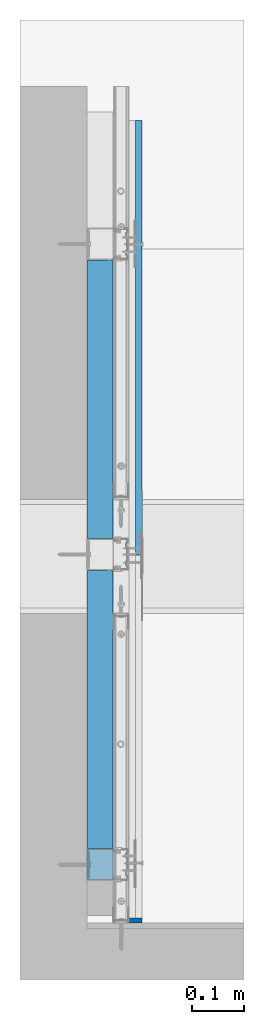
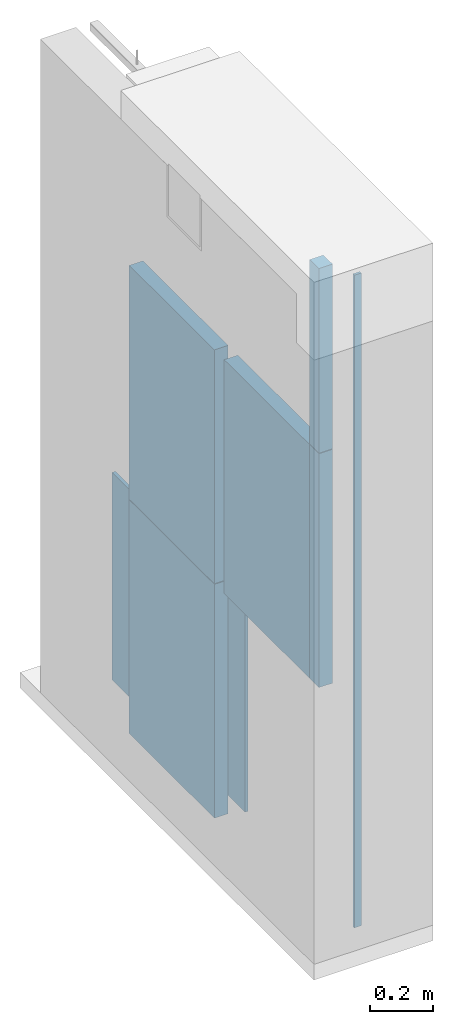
# One storey, part 4 of 67: 6 walls.
"""IFC2X3 building model written with IfcOpenShell, lengths in millimetres."""

from ifc_helpers import new_model, si_unit, frame, origin_with_axes, place, context, subcontext, project, spatial, faceted_brep, material, type_object, element, save


model = new_model("IFC2X3")

# Units and contexts
model_context = context("Model", 3, world=origin_with_axes())
body_context = subcontext(model_context, "Body", "Model", "MODEL_VIEW")
ifc_project = project(units=[si_unit("LENGTHUNIT", "METRE", prefix="MILLI"), si_unit("AREAUNIT", "SQUARE_METRE"), si_unit("VOLUMEUNIT", "CUBIC_METRE")], contexts=[model_context])

# Site, building, storey
site_placement = place(None, frame((2152.14102611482, 674.9749105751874, 57.61556563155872), z_axis=(0.0, 0.0, 1.0), x_axis=(-1.1102230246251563e-16, 1.0, 0.0)))
site = spatial("IfcSite", under=ifc_project, at=site_placement, Name="Default Site", CompositionType="ELEMENT")
building_placement = place(site_placement, origin_with_axes())
building = spatial("IfcBuilding", under=site, at=building_placement, Name="Default Building", CompositionType="ELEMENT")
storey_placement = place(building_placement, origin_with_axes())
storey = spatial("IfcBuildingStorey", under=building, at=storey_placement, Name="Default Building Storey", CompositionType="ELEMENT", Elevation=57.61556563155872)

# Walls
ifc_material_1 = material(Name="Undefined")
wall_type_1 = type_object("IfcWallType", Name="Wypełnienie z wełny mineralnej szklanej ISOVER#5", PredefinedType="NOTDEFINED")
for number, where, z_axis, x_axis, name in (
    (1, (2702.576545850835, 5350.424146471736, -7.900000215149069), (0.0, 0.0, 1.0), (-1.0, 4.718447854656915e-16, 0.0), "Wypełnienie z wełny mineralnej szklanej ISOVER"),
    (2, (2702.576545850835, 5350.424146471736, 895.3595813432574), (0.0, 0.0, 1.0), (-1.0, 4.718447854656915e-16, 0.0), "Wypełnienie z wełny mineralnej szklanej ISOVER"),
    (3, (2102.5765458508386, 5350.424146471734, 895.3595813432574), (0.0, 0.0, 1.0), (-1.0, 4.718447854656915e-16, 0.0), "Wypełnienie z wełny mineralnej szklanej ISOVER"),
):
    element("IfcWall", number, at=place(storey_placement, frame(where, z_axis=z_axis, x_axis=x_axis)), inside=storey, type_object=wall_type_1, material=ifc_material_1, Name=name, context=body_context, shape_type="Brep", body=[
        faceted_brep([(-166.46054244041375, 3328.2832634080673, 10.28402615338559), (-166.46054244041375, 3378.2831687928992, 10.28402615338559), (-166.46054244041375, 3378.2831687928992, 911.5436077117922), (-166.46054244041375, 3328.2832634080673, 911.5436077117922), (-704.4605239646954, 3378.2831687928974, 911.5436077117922), (-704.4605239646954, 3378.2831687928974, 10.28402615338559), (-704.4605239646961, 3328.283263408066, 10.28402615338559), (-704.4605239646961, 3328.283263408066, 911.5436077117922)], [[[0, 1, 2, 3]], [[4, 2, 1, 5]], [[5, 1, 0, 6]], [[6, 0, 3, 7]]]),
        faceted_brep([(-704.4605239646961, 3328.283263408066, 911.5436077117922), (-704.4605239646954, 3378.2831687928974, 911.5436077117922), (-704.4605239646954, 3378.2831687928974, 10.28402615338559), (-704.4605239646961, 3328.283263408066, 10.28402615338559), (-166.46054244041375, 3328.2832634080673, 911.5436077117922), (-166.46054244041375, 3378.2831687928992, 911.5436077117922)], [[[0, 1, 2, 3]], [[0, 4, 5, 1]]]),
    ])
ifc_material_2 = material(Name="Undefined7")
wall_type_2 = type_object("IfcWallType", Name="Płyta gipsowo-kartonowa RIGIPS PRO (4PRO™)#5", PredefinedType="NOTDEFINED")
wall_1_placement = place(storey_placement, frame((2836.506370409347, 1928.6800775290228, 1062.3900398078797), z_axis=(0.0, 0.0, 1.0), x_axis=(1.0, 0.0, 0.0)))
element("IfcWall", 4, at=wall_1_placement, inside=storey, type_object=wall_type_2, material=ifc_material_2, Name="Płyta gipsowo-kartonowa RIGIPS PRO (4PRO™)", context=body_context, shape_type="Brep", body=[
    faceted_brep([(840.534246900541, -12.500000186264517, -1050.001621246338), (840.534246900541, 1.6206911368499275e-10, -1050.001621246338), (840.534246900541, 2.5772237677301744e-10, -250.0), (840.534246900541, -12.500000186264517, -250.0), (45.00000178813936, -12.500000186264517, -250.0), (45.00000178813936, -12.500000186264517, -1050.001621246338), (41.00000113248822, -11.500000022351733, -1050.001621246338), (41.00000113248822, -11.500000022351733, -250.0), (1.0000000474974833, -11.500000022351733, -1050.001621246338), (1.0000000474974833, -11.500000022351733, -250.0), (0.7411809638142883, -11.465925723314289, -1050.001621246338), (0.7411809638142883, -11.465925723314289, -250.0), (0.5000000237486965, -11.366025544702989, -1050.001621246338), (0.5000000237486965, -11.366025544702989, -250.0), (0.2928932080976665, -11.207106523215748, -1050.001621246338), (0.2928932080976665, -11.207106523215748, -250.0), (0.13397459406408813, -10.999999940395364, -1050.001621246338), (0.13397459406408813, -10.999999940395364, -250.0), (0.03407417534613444, -10.758819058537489, -1050.001621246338), (0.03407417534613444, -10.758819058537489, -250.0), (-3.9705128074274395e-12, -10.49999985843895, -1050.001621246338), (-3.9705128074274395e-12, -10.49999985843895, -250.0), (0.0, 0.0, -1050.001621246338), (0.0, 0.0, -250.0)], [[[0, 1, 2, 3]], [[4, 5, 0, 3]], [[6, 5, 4, 7]], [[8, 6, 7, 9]], [[10, 8, 9, 11]], [[12, 10, 11, 13]], [[14, 12, 13, 15]], [[16, 14, 15, 17]], [[18, 16, 17, 19]], [[20, 18, 19, 21]], [[22, 20, 21, 23]], [[23, 2, 1, 22]], [[6, 8, 10, 12, 14, 16, 18, 20, 22, 1, 0, 5]], [[23, 21, 19, 17, 15, 13, 11, 9, 7, 4, 3, 2]]]),
])
ifc_material_3 = material(Name="Undefined5")
wall_type_3 = type_object("IfcWallType", Name="Masa szpachlowa konstrukcyjna RIGIPS#4", PredefinedType="NOTDEFINED")
wall_2_placement = place(storey_placement, frame((2135.029481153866, 1940.826247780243, 235.27306068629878), z_axis=(-1.0, 6.389333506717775e-13, -4.718447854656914e-16), x_axis=(4.718447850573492e-16, -6.390998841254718e-13, -1.0)))
element("IfcWall", 5, at=wall_2_placement, inside=storey, type_object=wall_type_3, material=ifc_material_3, Name="Masa szpachlowa konstrukcyjna RIGIPS", context=body_context, shape_type="Brep", body=[
    faceted_brep([(232.8890347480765, 24.64617043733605, -3.6095570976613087e-13), (232.8890347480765, -0.3499999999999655, 0.0), (-2282.121373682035, -0.3499999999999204, 0.0), (-2282.121373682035, 24.646170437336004, -3.6095570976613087e-13), (232.88903474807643, -0.35000000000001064, 10.00439262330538), (-2282.121373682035, -0.3499999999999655, 10.00439262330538), (232.88903474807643, 24.646170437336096, 10.00439262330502), (-2282.121373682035, 24.646170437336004, 10.00439262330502)], [[[0, 1, 2, 3]], [[1, 4, 5, 2]], [[4, 6, 7, 5]], [[6, 0, 3, 7]], [[7, 3, 2, 5]], [[0, 6, 4, 1]]]),
])
ifc_material_4 = material(Name="Default")
wall_type_4 = type_object("IfcWallType", Name="Wypełnienie z wełny mineralnej szklanej ISOVER#3", PredefinedType="NOTDEFINED")
wall_3_placement = place(storey_placement, frame((2041.062306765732, 5350.42414647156, 895.3595813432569), z_axis=(0.0, 0.0, 1.0), x_axis=(-1.0, 4.718447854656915e-16, 0.0)))
element("IfcWall", 6, at=wall_3_placement, inside=storey, type_object=wall_type_4, material=ifc_material_4, Name="Wypełnienie z wełny mineralnej szklanej ISOVER", context=body_context, shape_type="Brep", body=[
    faceted_brep([(-168.12478005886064, 3328.2832634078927, 10.28402615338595), (-168.12478005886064, 3328.2832634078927, 911.5436077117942), (-225.97478152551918, 3328.2832634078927, 911.5436077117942), (-225.97478152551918, 3328.2832634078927, 10.28402615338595), (-168.124780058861, 3378.283168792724, 10.28402615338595), (-168.124780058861, 3378.283168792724, 911.5436077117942), (-225.97478152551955, 3378.283168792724, 911.5436077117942), (-225.97478152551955, 3378.283168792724, 10.28402615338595)], [[[0, 1, 2, 3]], [[0, 4, 5, 1]], [[6, 5, 4, 7]], [[7, 4, 0, 3]]]),
    faceted_brep([(-225.97478152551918, 3328.2832634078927, 911.5436077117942), (-225.97478152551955, 3378.283168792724, 911.5436077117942), (-225.97478152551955, 3378.283168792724, 10.28402615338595), (-225.97478152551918, 3328.2832634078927, 10.28402615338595), (-168.12478005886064, 3328.2832634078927, 911.5436077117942), (-168.124780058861, 3378.283168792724, 911.5436077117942)], [[[0, 1, 2, 3]], [[1, 0, 4, 5]]]),
    faceted_brep([(-168.12478005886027, 3328.2832634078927, 913.5436077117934), (-168.12478005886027, 3328.2832634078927, 1625.0348530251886), (-225.9747815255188, 3328.2832634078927, 1625.0348530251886), (-225.9747815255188, 3328.2832634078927, 913.5436077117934), (-168.12478005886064, 3378.283168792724, 913.5436077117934), (-168.12478005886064, 3378.283168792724, 1625.0348530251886), (-225.97478152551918, 3378.283168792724, 1625.0348530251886), (-225.97478152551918, 3378.283168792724, 913.5436077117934)], [[[0, 1, 2, 3]], [[0, 4, 5, 1]], [[6, 5, 4, 7]], [[7, 4, 0, 3]]]),
    faceted_brep([(-225.9747815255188, 3328.2832634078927, 1625.0348530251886), (-225.97478152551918, 3378.283168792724, 1625.0348530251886), (-225.97478152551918, 3378.283168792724, 913.5436077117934), (-225.9747815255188, 3328.2832634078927, 913.5436077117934), (-168.12478005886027, 3328.2832634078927, 1625.0348530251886), (-168.12478005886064, 3378.283168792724, 1625.0348530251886)], [[[0, 1, 2, 3]], [[1, 0, 4, 5]]]),
])

save(model, "model.ifc")
